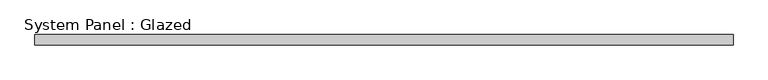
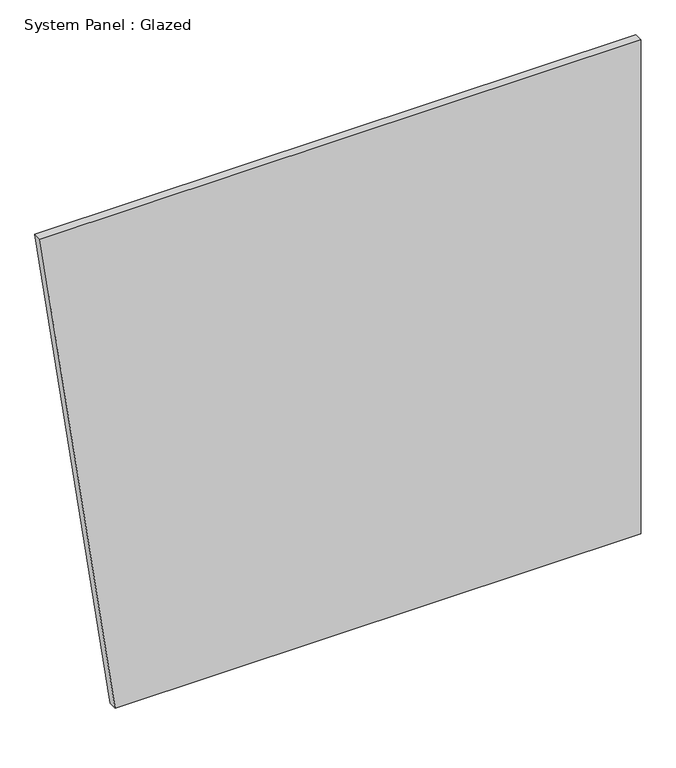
"""IFC4 building model written with IfcOpenShell, lengths in millimetres: plate geometry, System Panel : Glazed."""

from ifc_helpers import new_model, si_unit, frame, origin, place, context, project, spatial, polyline, outline, extrude, source, transform, mapped, element, save


def system_panel_glazed_324cedf0(model_context):
    return source(origin(), model_context, "Body", "SweptSolid", [
        extrude(outline(polyline([(0.0, -657.8417268), (0.0, 877.1223023), (1524.0, 877.1223023), (1524.0, -877.1223023), (0.0, -657.8417268)])), frame((0.0, 19.05, 0.0), z_axis=(0.0, 1.0, 0.0), x_axis=(0.0, 0.0, 1.0)), (0.0, 0.0, 1.0), 25.4),
    ])


if __name__ == "__main__":
    model = new_model("IFC4")
    model_context = context("Model", 3, world=origin())
    ifc_project = project(units=[si_unit("LENGTHUNIT", "METRE", prefix="MILLI")], contexts=[model_context])
    site = spatial("IfcSite", under=ifc_project)
    building = spatial("IfcBuilding", under=site)
    placement = place(None, origin())
    system_panel_glazed_shape = system_panel_glazed_324cedf0(model_context)
    element("IfcPlate", 1, ObjectType="System Panel : Glazed", at=placement, inside=building, context=model_context, shape_type="MappedRepresentation", body=[
        mapped(system_panel_glazed_shape, transform((0.0, 0.0, 0.0), x_axis=(1.0, 0.0, 0.0), y_axis=(0.0, 1.0, 0.0), z_axis=(0.0, 0.0, 1.0))),
    ])
    save(model, "model.ifc")
